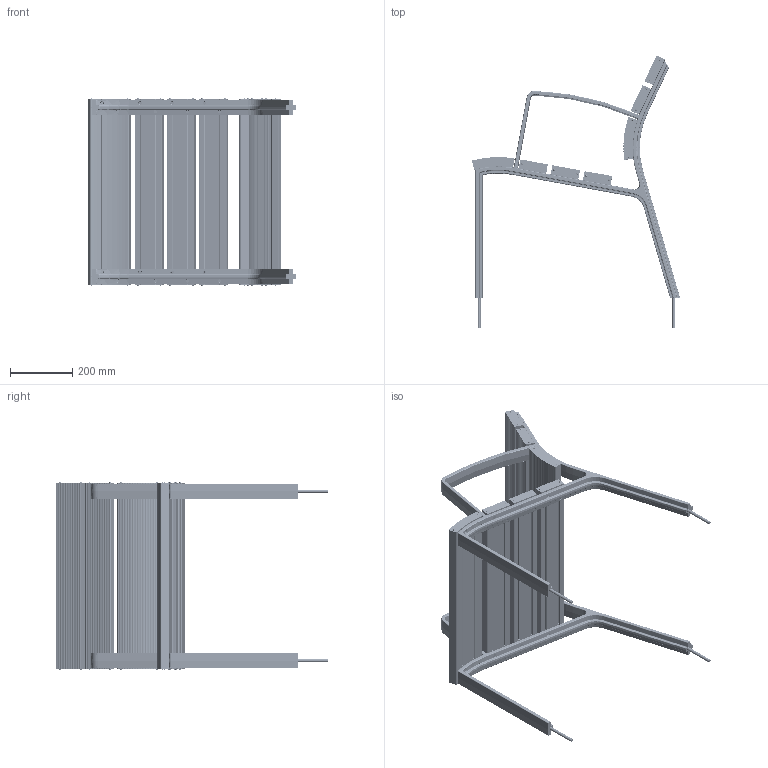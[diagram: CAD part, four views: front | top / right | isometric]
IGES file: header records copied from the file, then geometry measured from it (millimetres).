
Start section: SolidWorks IGES file using analytic representation for surfaces
Global section: file name: C:\SANTACOLE_PDM\Proyectos Catálogo\PROD-P06-035 -- NEOROMÁNTICO LIVIANO\6_Técnico comercial\3D WEB\NEOROMANTICO LIVIANO 100% ALUMINIO 0.60M.IGS; native system: SolidWorks 2013; preprocessor: SolidWorks 2013; author: MarioV; date: 150324.163013; units: millimetre
Bounding box: 668.94 x 875.04 x 604.33 mm (x, y, z)
Volume: 6821922.4 mm3; surface area: 3736904.8 mm2
Topology: 111 solids, 111 shells, 6445 faces, 17636 edges, 11310 vertices
Faces by surface type: revolution 3296, plane 2429, bspline 720
